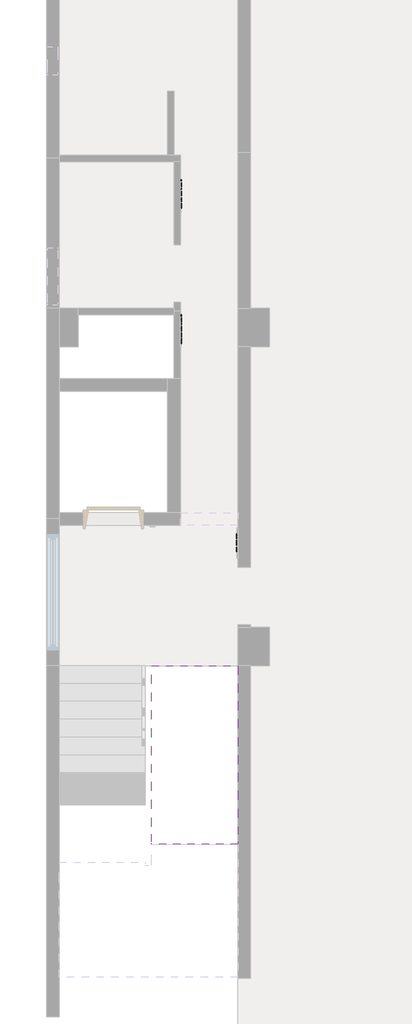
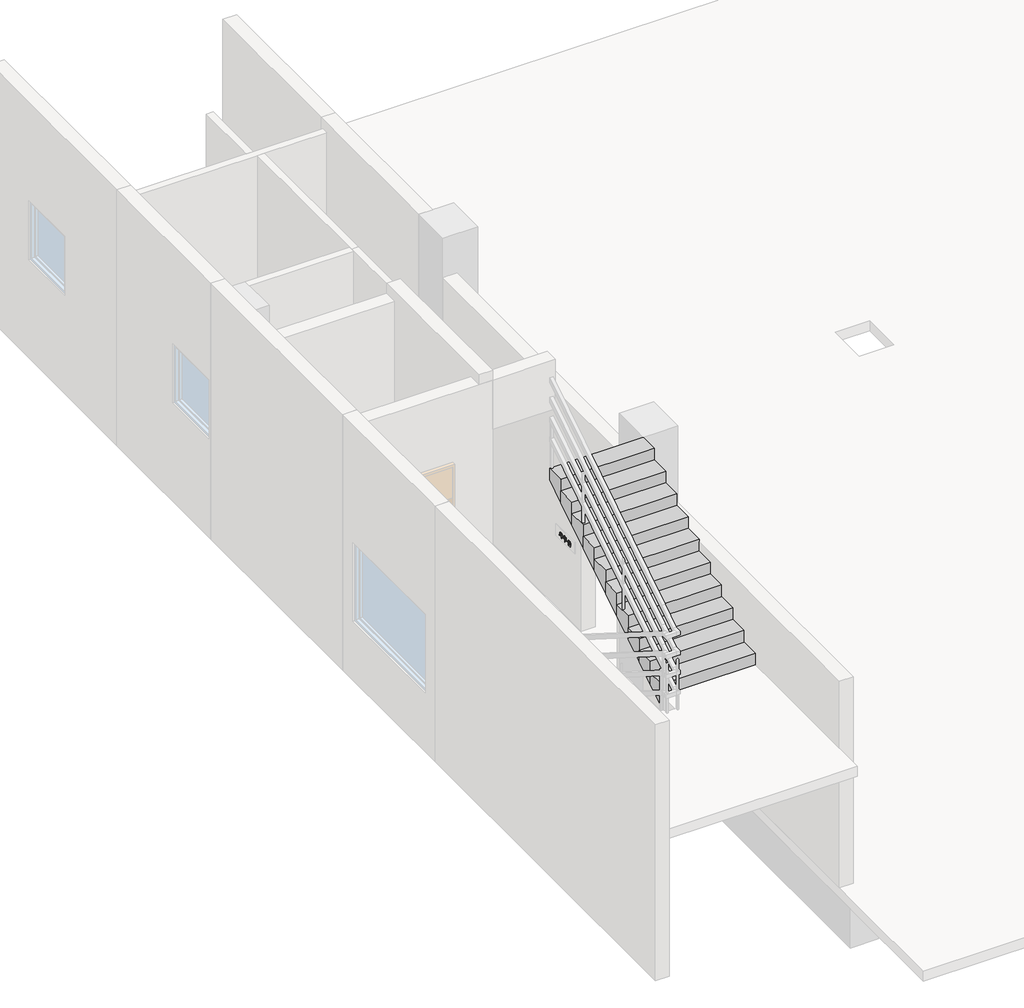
# One storey, part 3 of 3: 3 proxies, 1 stair flight.
"""IFC4 building model written with IfcOpenShell, lengths in millimetres."""

from ifc_helpers import new_model, si_unit, frame, origin, place, context, project, spatial, polyline, outline, extrude, faceted_brep, element, save

model = new_model("IFC4")

# Units and contexts
model_context = context("Model", 3, world=origin())
ifc_project = project(units=[si_unit("LENGTHUNIT", "METRE", prefix="MILLI")], contexts=[model_context])

# Site, building, storey
site = spatial("IfcSite", under=ifc_project)
building = spatial("IfcBuilding", under=site)
storey = spatial("IfcBuildingStorey", under=building, Name="5층", Elevation=14700.0)

# Proxies
placement = place(None, origin())
element("IfcBuildingElementProxy", 1, Name="600 mm Arial", ObjectType="600 mm Arial", at=placement, inside=storey, context=model_context, shape_type="SweptSolid", body=[
    extrude(outline(polyline([(10297.787199, 15917.7990058), (10300.6391665, 15917.0436198), (10301.7028733, 15915.3324394), (10300.7933269, 15913.0508654), (10298.1726, 15911.8792463), (10253.0652656, 15911.8792463), (10249.42708, 15915.3324394), (10253.0652656, 15917.7990058), (10297.787199, 15917.7990058)])), frame((1860.0, 0.0, 0.0), z_axis=(1.0, 0.0, 0.0), x_axis=(0.0, 1.0, 0.0)), (0.0, 0.0, 1.0), 10.0),
    extrude(outline(polyline([(10288.1213416, 15928.6518983), (10291.8366074, 15926.1853318), (10288.3063341, 15922.7321388), (10261.9449049, 15922.7321388), (10258.3067193, 15926.1853318), (10261.9449049, 15928.6518983), (10288.1213416, 15928.6518983)])), frame((1860.0, 0.0, 0.0), z_axis=(1.0, 0.0, 0.0), x_axis=(0.0, 1.0, 0.0)), (0.0, 0.0, 1.0), 10.0),
    extrude(outline(polyline([(10275.711429, 15906.9461133), (10292.0524319, 15902.2133889), (10297.771783, 15891.7921456), (10292.067848, 15880.4151077), (10279.0258777, 15876.3955749), (10279.0258777, 15863.5345434), (10288.8767276, 15864.8140747), (10301.0399835, 15868.4676763), (10305.6031315, 15867.0802327), (10303.5836302, 15862.640413), (10278.9025494, 15857.6147838), (10248.8104384, 15856.6281572), (10245.6501501, 15857.6456159), (10244.4939471, 15860.1275984), (10245.4497416, 15861.869611), (10248.3325412, 15862.5479168), (10258.3837995, 15862.640413), (10271.132865, 15862.9949819), (10271.132865, 15876.7526908), (10258.9696091, 15880.4151077), (10253.3735864, 15891.7921456), (10258.9696091, 15902.2133889), (10275.711429, 15906.9461133)]), holes=[polyline([(10275.711429, 15901.0263538), (10264.5347997, 15898.0356419), (10261.2665991, 15891.7921456), (10264.5502157, 15884.5774386), (10275.711429, 15881.293822), (10286.5643215, 15884.5774386), (10289.8787702, 15891.7921456), (10286.5951536, 15898.051058), (10275.711429, 15901.0263538)])]), frame((1860.0, 0.0, 0.0), z_axis=(1.0, 0.0, 0.0), x_axis=(0.0, 1.0, 0.0)), (0.0, 0.0, 1.0), 10.0),
    extrude(outline(polyline([(10315.5310616, 15893.1333411), (10324.7036057, 15893.1333411), (10327.3243325, 15892.4242032), (10328.3417912, 15890.7130227), (10327.5709892, 15888.3852006), (10325.1815029, 15887.2135815), (10315.5310616, 15887.2135815), (10315.5310616, 15854.4236634), (10314.159034, 15851.6796082), (10311.5383071, 15850.7083977), (10308.8713321, 15851.7104403), (10307.6380489, 15854.5624078), (10307.6380489, 15928.9448031), (10308.8867481, 15930.9488884), (10311.5383071, 15931.6117781), (10314.1282019, 15930.9334723), (10315.5310616, 15929.0218833), (10315.5310616, 15893.1333411)])), frame((1860.0, 0.0, 0.0), z_axis=(1.0, 0.0, 0.0), x_axis=(0.0, 1.0, 0.0)), (0.0, 0.0, 1.0), 10.0),
    extrude(outline(polyline([(10414.1937206, 15908.9193665), (10423.3662647, 15908.9193665), (10425.9869916, 15908.2410607), (10427.0044502, 15906.4990482), (10426.2182322, 15904.1249779), (10423.7516657, 15902.999607), (10414.1937206, 15902.999607), (10414.1937206, 15885.0861679), (10412.821693, 15882.1879523), (10410.2009661, 15881.293822), (10407.5339911, 15882.1879523), (10406.3007079, 15885.1478321), (10406.3007079, 15929.0372993), (10410.2009661, 15931.6117781), (10414.1937206, 15929.1760437), (10414.1937206, 15908.9193665)])), frame((1860.0, 0.0, 0.0), z_axis=(1.0, 0.0, 0.0), x_axis=(0.0, 1.0, 0.0)), (0.0, 0.0, 1.0), 10.0),
    extrude(outline(polyline([(10383.6545444, 15880.3071954), (10407.2873345, 15876.0832003), (10413.207094, 15871.4699502), (10415.1803472, 15865.8623655), (10413.207094, 15859.7460514), (10407.2873345, 15855.024889), (10383.6545444, 15850.7083977), (10359.9138421, 15855.024889), (10354.0056446, 15859.7383434), (10352.0362454, 15865.8623655), (10354.0056446, 15871.4699502), (10359.9138421, 15876.0832003), (10383.6545444, 15880.3071954)]), holes=[polyline([(10383.6545444, 15874.3874359), (10365.1707119, 15871.8437892), (10359.9292581, 15865.9086136), (10365.1707119, 15859.3259643), (10383.6545444, 15856.6281572), (10401.9379684, 15859.3259643), (10407.2873345, 15865.9086136), (10401.9379684, 15871.8437892), (10383.6545444, 15874.3874359)])]), frame((1860.0, 0.0, 0.0), z_axis=(1.0, 0.0, 0.0), x_axis=(0.0, 1.0, 0.0)), (0.0, 0.0, 1.0), 10.0),
    extrude(outline(polyline([(10395.5865598, 15929.6385249), (10398.9626726, 15927.2182066), (10395.5865598, 15923.7187654), (10377.6885368, 15923.7187654), (10377.6885368, 15921.7609282), (10379.3804472, 15912.3802676), (10384.4561785, 15904.6182912), (10399.1784972, 15895.1065943), (10401.382991, 15893.6112383), (10401.1363343, 15891.1138398), (10398.8855924, 15889.2484989), (10395.5248956, 15889.4643234), (10381.4038025, 15898.1898023), (10373.603286, 15909.3201836), (10366.2035866, 15897.6348249), (10351.1883632, 15888.2156242), (10348.2593155, 15888.3543685), (10346.2398142, 15890.2351255), (10345.9931576, 15892.6091957), (10348.1976513, 15894.1199677), (10363.4595314, 15904.2791383), (10368.2115259, 15912.0642388), (10369.795524, 15921.5451037), (10369.795524, 15923.7187654), (10351.8975011, 15923.7187654), (10348.3363957, 15927.2182066), (10351.9899973, 15929.6385249), (10395.5865598, 15929.6385249)])), frame((1860.0, 0.0, 0.0), z_axis=(1.0, 0.0, 0.0), x_axis=(0.0, 1.0, 0.0)), (0.0, 0.0, 1.0), 10.0),
    extrude(outline(polyline([(10515.8162594, 15892.8404363), (10514.4442318, 15890.065549), (10511.869753, 15889.1868347), (10509.1565299, 15890.0809651), (10507.9232467, 15892.8404363), (10507.9232467, 15928.9448031), (10509.1565299, 15930.9488884), (10511.869753, 15931.6117781), (10514.4288158, 15930.9488884), (10515.8162594, 15929.0527154), (10515.8162594, 15892.8404363)])), frame((1860.0, 0.0, 0.0), z_axis=(1.0, 0.0, 0.0), x_axis=(0.0, 1.0, 0.0)), (0.0, 0.0, 1.0), 10.0),
    extrude(outline(polyline([(10506.150402, 15885.2403284), (10513.2571967, 15883.3441554), (10515.8162594, 15878.1181177), (10515.8162594, 15874.0328669), (10513.365109, 15868.5293405), (10507.1986928, 15866.4944231), (10462.0296942, 15866.4944231), (10459.9639448, 15866.0011098), (10459.5785438, 15864.2590973), (10459.5785438, 15860.3280069), (10460.0256089, 15858.2160094), (10461.9063659, 15857.6147838), (10513.8738383, 15857.6147838), (10517.7740965, 15855.1944655), (10516.8799662, 15852.8049792), (10514.2438233, 15851.6950243), (10459.9947769, 15851.6950243), (10454.0904334, 15853.8378539), (10451.685531, 15859.6805332), (10451.685531, 15865.4153003), (10453.9979371, 15870.5334257), (10459.8406165, 15872.4141827), (10505.2871038, 15872.4141827), (10507.3528532, 15872.9691601), (10507.9232467, 15874.834501), (10507.9232467, 15877.3318996), (10507.4607655, 15878.8580876), (10505.2100236, 15879.3205688), (10455.5241251, 15879.3205688), (10451.685531, 15882.7891779), (10455.5395412, 15885.2403284), (10506.150402, 15885.2403284)])), frame((1860.0, 0.0, 0.0), z_axis=(1.0, 0.0, 0.0), x_axis=(0.0, 1.0, 0.0)), (0.0, 0.0, 1.0), 10.0),
    extrude(outline(polyline([(10465.4983033, 15926.7865574), (10466.7624186, 15928.9756352), (10469.3985615, 15929.6385249), (10472.0038724, 15928.9756352), (10473.391316, 15926.7865574), (10472.63593, 15921.0826225), (10470.9555816, 15915.6407602), (10484.5062812, 15906.4682161), (10495.1433491, 15894.3666243), (10495.8987351, 15892.2083786), (10494.4342113, 15889.7263961), (10491.7364042, 15889.0789224), (10488.9461009, 15890.7901029), (10479.3573237, 15902.0283964), (10468.5506793, 15910.1526498), (10461.1201478, 15899.2380931), (10449.1573004, 15888.0306317), (10446.1049244, 15887.2598297), (10443.8233504, 15888.7089375), (10443.1758767, 15891.206336), (10445.1491299, 15893.117925), (10460.7501628, 15910.8463716), (10465.4983033, 15926.7865574)])), frame((1860.0, 0.0, 0.0), z_axis=(1.0, 0.0, 0.0), x_axis=(0.0, 1.0, 0.0)), (0.0, 0.0, 1.0), 10.0),
    extrude(outline(polyline([(10556.6225185, 15935.2345476), (10559.3665737, 15936.4678308), (10562.0797969, 15935.9899336), (10563.7601453, 15934.2787531), (10563.1435037, 15931.3497054), (10553.4313982, 15912.4804719), (10550.3481901, 15891.6379851), (10553.1539094, 15870.2713531), (10562.9893433, 15851.957097), (10564.0684661, 15849.290122), (10562.6810224, 15846.5460668), (10559.7673908, 15845.5286081), (10556.6995987, 15847.2089565), (10545.5846336, 15867.8818668), (10542.4551773, 15891.6379851), (10545.7850421, 15914.052908), (10556.6225185, 15935.2345476)])), frame((1860.0, 0.0, 0.0), z_axis=(1.0, 0.0, 0.0), x_axis=(0.0, 1.0, 0.0)), (0.0, 0.0, 1.0), 10.0),
    extrude(outline(polyline([(10604.7513969, 15928.6518983), (10614.5598527, 15926.0350255), (10621.7552895, 15918.1844068), (10625.3973917, 15908.5766763), (10626.4263498, 15910.2143139), (10629.4324777, 15910.8926197), (10644.0777161, 15910.8926197), (10644.0777161, 15928.8060587), (10645.2955833, 15930.8563921), (10648.0242225, 15931.6117781), (10650.6141173, 15930.9488884), (10651.9707289, 15928.8368908), (10651.9707289, 15854.6549041), (10650.6449494, 15851.7258564), (10648.0242225, 15850.7083977), (10645.2647513, 15851.7412724), (10644.0777161, 15854.6857361), (10644.0777161, 15878.3339422), (10629.2629013, 15878.3339422), (10625.8552008, 15880.4777179), (10621.7552895, 15869.6547114), (10614.4211083, 15861.3647357), (10604.7513969, 15858.6014104), (10594.9082551, 15861.3647357), (10587.4545995, 15869.6547114), (10583.3038306, 15880.6270782), (10581.920241, 15894.0274714), (10583.3038306, 15907.2197481), (10587.4545995, 15918.1844068), (10594.7695107, 15926.0350255), (10604.7513969, 15928.6518983)]), holes=[polyline([(10626.2062694, 15883.4271544), (10629.2629013, 15884.2537018), (10644.0777161, 15884.2537018), (10644.0777161, 15904.9728602), (10629.5249739, 15904.9728602), (10625.9314286, 15907.0731936), (10627.3050641, 15894.0274714), (10626.2062694, 15883.4271544)]), polyline([(10604.7051488, 15922.7321388), (10598.4115503, 15920.6432653), (10593.6210157, 15914.3766448), (10589.8132537, 15894.0737195), (10593.6210157, 15873.5241376), (10598.5425866, 15866.7719119), (10604.7051488, 15864.52117), (10610.7174046, 15866.7719119), (10615.5888734, 15873.5241376), (10619.4120514, 15894.0737195), (10615.5888734, 15914.3766448), (10610.8484409, 15920.6432653), (10604.7051488, 15922.7321388)])]), frame((1860.0, 0.0, 0.0), z_axis=(1.0, 0.0, 0.0), x_axis=(0.0, 1.0, 0.0)), (0.0, 0.0, 1.0), 10.0),
    extrude(outline(polyline([(10683.1265467, 15935.2345476), (10693.902359, 15914.052908), (10697.355552, 15891.6379851), (10694.1027675, 15867.8818668), (10683.0802985, 15847.2089565), (10679.9200102, 15845.5286081), (10676.9909626, 15846.5460668), (10675.618935, 15849.290122), (10676.8059701, 15851.957097), (10686.5334916, 15870.2713531), (10689.4625393, 15891.6379851), (10686.2560029, 15912.4804719), (10676.6363936, 15931.3342894), (10675.9118397, 15934.2787531), (10677.6076042, 15935.9899336), (10680.2899952, 15936.4678308), (10683.1265467, 15935.2345476)])), frame((1860.0, 0.0, 0.0), z_axis=(1.0, 0.0, 0.0), x_axis=(0.0, 1.0, 0.0)), (0.0, 0.0, 1.0), 10.0),
])
element("IfcBuildingElementProxy", 2, Name="600 mm Arial", ObjectType="600 mm Arial", at=placement, inside=storey, context=model_context, shape_type="SweptSolid", body=[
    extrude(outline(polyline([(12417.787199, 15917.7990058), (12420.6391665, 15917.0436198), (12421.7028733, 15915.3324394), (12420.7933269, 15913.0508654), (12418.1726, 15911.8792463), (12373.0652656, 15911.8792463), (12369.42708, 15915.3324394), (12373.0652656, 15917.7990058), (12417.787199, 15917.7990058)])), frame((1860.0, 0.0, 0.0), z_axis=(1.0, 0.0, 0.0), x_axis=(0.0, 1.0, 0.0)), (0.0, 0.0, 1.0), 10.0),
    extrude(outline(polyline([(12408.1213416, 15928.6518983), (12411.8366074, 15926.1853318), (12408.3063341, 15922.7321388), (12381.9449049, 15922.7321388), (12378.3067193, 15926.1853318), (12381.9449049, 15928.6518983), (12408.1213416, 15928.6518983)])), frame((1860.0, 0.0, 0.0), z_axis=(1.0, 0.0, 0.0), x_axis=(0.0, 1.0, 0.0)), (0.0, 0.0, 1.0), 10.0),
    extrude(outline(polyline([(12395.711429, 15906.9461133), (12412.0524319, 15902.2133889), (12417.771783, 15891.7921456), (12412.067848, 15880.4151077), (12399.0258777, 15876.3955749), (12399.0258777, 15863.5345434), (12408.8767276, 15864.8140747), (12421.0399835, 15868.4676763), (12425.6031315, 15867.0802327), (12423.5836302, 15862.640413), (12398.9025494, 15857.6147838), (12368.8104384, 15856.6281572), (12365.6501501, 15857.6456159), (12364.4939471, 15860.1275984), (12365.4497416, 15861.869611), (12368.3325412, 15862.5479168), (12378.3837995, 15862.640413), (12391.132865, 15862.9949819), (12391.132865, 15876.7526908), (12378.9696091, 15880.4151077), (12373.3735864, 15891.7921456), (12378.9696091, 15902.2133889), (12395.711429, 15906.9461133)]), holes=[polyline([(12395.711429, 15901.0263538), (12384.5347997, 15898.0356419), (12381.2665991, 15891.7921456), (12384.5502157, 15884.5774386), (12395.711429, 15881.293822), (12406.5643215, 15884.5774386), (12409.8787702, 15891.7921456), (12406.5951536, 15898.051058), (12395.711429, 15901.0263538)])]), frame((1860.0, 0.0, 0.0), z_axis=(1.0, 0.0, 0.0), x_axis=(0.0, 1.0, 0.0)), (0.0, 0.0, 1.0), 10.0),
    extrude(outline(polyline([(12435.5310616, 15893.1333411), (12444.7036057, 15893.1333411), (12447.3243325, 15892.4242032), (12448.3417912, 15890.7130227), (12447.5709892, 15888.3852006), (12445.1815029, 15887.2135815), (12435.5310616, 15887.2135815), (12435.5310616, 15854.4236634), (12434.159034, 15851.6796082), (12431.5383071, 15850.7083977), (12428.8713321, 15851.7104403), (12427.6380489, 15854.5624078), (12427.6380489, 15928.9448031), (12428.8867481, 15930.9488884), (12431.5383071, 15931.6117781), (12434.1282019, 15930.9334723), (12435.5310616, 15929.0218833), (12435.5310616, 15893.1333411)])), frame((1860.0, 0.0, 0.0), z_axis=(1.0, 0.0, 0.0), x_axis=(0.0, 1.0, 0.0)), (0.0, 0.0, 1.0), 10.0),
    extrude(outline(polyline([(12534.1937206, 15908.9193665), (12543.3662647, 15908.9193665), (12545.9869916, 15908.2410607), (12547.0044502, 15906.4990482), (12546.2182322, 15904.1249779), (12543.7516657, 15902.999607), (12534.1937206, 15902.999607), (12534.1937206, 15885.0861679), (12532.821693, 15882.1879523), (12530.2009661, 15881.293822), (12527.5339911, 15882.1879523), (12526.3007079, 15885.1478321), (12526.3007079, 15929.0372993), (12530.2009661, 15931.6117781), (12534.1937206, 15929.1760437), (12534.1937206, 15908.9193665)])), frame((1860.0, 0.0, 0.0), z_axis=(1.0, 0.0, 0.0), x_axis=(0.0, 1.0, 0.0)), (0.0, 0.0, 1.0), 10.0),
    extrude(outline(polyline([(12503.6545444, 15880.3071954), (12527.2873345, 15876.0832003), (12533.207094, 15871.4699502), (12535.1803472, 15865.8623655), (12533.207094, 15859.7460514), (12527.2873345, 15855.024889), (12503.6545444, 15850.7083977), (12479.9138421, 15855.024889), (12474.0056446, 15859.7383434), (12472.0362454, 15865.8623655), (12474.0056446, 15871.4699502), (12479.9138421, 15876.0832003), (12503.6545444, 15880.3071954)]), holes=[polyline([(12503.6545444, 15874.3874359), (12485.1707119, 15871.8437892), (12479.9292581, 15865.9086136), (12485.1707119, 15859.3259643), (12503.6545444, 15856.6281572), (12521.9379684, 15859.3259643), (12527.2873345, 15865.9086136), (12521.9379684, 15871.8437892), (12503.6545444, 15874.3874359)])]), frame((1860.0, 0.0, 0.0), z_axis=(1.0, 0.0, 0.0), x_axis=(0.0, 1.0, 0.0)), (0.0, 0.0, 1.0), 10.0),
    extrude(outline(polyline([(12515.5865598, 15929.6385249), (12518.9626726, 15927.2182066), (12515.5865598, 15923.7187654), (12497.6885368, 15923.7187654), (12497.6885368, 15921.7609282), (12499.3804472, 15912.3802676), (12504.4561785, 15904.6182912), (12519.1784972, 15895.1065943), (12521.382991, 15893.6112383), (12521.1363343, 15891.1138398), (12518.8855924, 15889.2484989), (12515.5248956, 15889.4643234), (12501.4038025, 15898.1898023), (12493.603286, 15909.3201836), (12486.2035866, 15897.6348249), (12471.1883632, 15888.2156242), (12468.2593155, 15888.3543685), (12466.2398142, 15890.2351255), (12465.9931576, 15892.6091957), (12468.1976513, 15894.1199677), (12483.4595314, 15904.2791383), (12488.2115259, 15912.0642388), (12489.795524, 15921.5451037), (12489.795524, 15923.7187654), (12471.8975011, 15923.7187654), (12468.3363957, 15927.2182066), (12471.9899973, 15929.6385249), (12515.5865598, 15929.6385249)])), frame((1860.0, 0.0, 0.0), z_axis=(1.0, 0.0, 0.0), x_axis=(0.0, 1.0, 0.0)), (0.0, 0.0, 1.0), 10.0),
    extrude(outline(polyline([(12635.8162594, 15892.8404363), (12634.4442318, 15890.065549), (12631.869753, 15889.1868347), (12629.1565299, 15890.0809651), (12627.9232467, 15892.8404363), (12627.9232467, 15928.9448031), (12629.1565299, 15930.9488884), (12631.869753, 15931.6117781), (12634.4288158, 15930.9488884), (12635.8162594, 15929.0527154), (12635.8162594, 15892.8404363)])), frame((1860.0, 0.0, 0.0), z_axis=(1.0, 0.0, 0.0), x_axis=(0.0, 1.0, 0.0)), (0.0, 0.0, 1.0), 10.0),
    extrude(outline(polyline([(12626.150402, 15885.2403284), (12633.2571967, 15883.3441554), (12635.8162594, 15878.1181177), (12635.8162594, 15874.0328669), (12633.365109, 15868.5293405), (12627.1986928, 15866.4944231), (12582.0296942, 15866.4944231), (12579.9639448, 15866.0011098), (12579.5785438, 15864.2590973), (12579.5785438, 15860.3280069), (12580.0256089, 15858.2160094), (12581.9063659, 15857.6147838), (12633.8738383, 15857.6147838), (12637.7740965, 15855.1944655), (12636.8799662, 15852.8049792), (12634.2438233, 15851.6950243), (12579.9947769, 15851.6950243), (12574.0904334, 15853.8378539), (12571.685531, 15859.6805332), (12571.685531, 15865.4153003), (12573.9979371, 15870.5334257), (12579.8406165, 15872.4141827), (12625.2871038, 15872.4141827), (12627.3528532, 15872.9691601), (12627.9232467, 15874.834501), (12627.9232467, 15877.3318996), (12627.4607655, 15878.8580876), (12625.2100236, 15879.3205688), (12575.5241251, 15879.3205688), (12571.685531, 15882.7891779), (12575.5395412, 15885.2403284), (12626.150402, 15885.2403284)])), frame((1860.0, 0.0, 0.0), z_axis=(1.0, 0.0, 0.0), x_axis=(0.0, 1.0, 0.0)), (0.0, 0.0, 1.0), 10.0),
    extrude(outline(polyline([(12585.4983033, 15926.7865574), (12586.7624186, 15928.9756352), (12589.3985615, 15929.6385249), (12592.0038724, 15928.9756352), (12593.391316, 15926.7865574), (12592.63593, 15921.0826225), (12590.9555816, 15915.6407602), (12604.5062812, 15906.4682161), (12615.1433491, 15894.3666243), (12615.8987351, 15892.2083786), (12614.4342113, 15889.7263961), (12611.7364042, 15889.0789224), (12608.9461009, 15890.7901029), (12599.3573237, 15902.0283964), (12588.5506793, 15910.1526498), (12581.1201478, 15899.2380931), (12569.1573004, 15888.0306317), (12566.1049244, 15887.2598297), (12563.8233504, 15888.7089375), (12563.1758767, 15891.206336), (12565.1491299, 15893.117925), (12580.7501628, 15910.8463716), (12585.4983033, 15926.7865574)])), frame((1860.0, 0.0, 0.0), z_axis=(1.0, 0.0, 0.0), x_axis=(0.0, 1.0, 0.0)), (0.0, 0.0, 1.0), 10.0),
    extrude(outline(polyline([(12676.6225185, 15935.2345476), (12679.3665737, 15936.4678308), (12682.0797969, 15935.9899336), (12683.7601453, 15934.2787531), (12683.1435037, 15931.3497054), (12673.4313982, 15912.4804719), (12670.3481901, 15891.6379851), (12673.1539094, 15870.2713531), (12682.9893433, 15851.957097), (12684.0684661, 15849.290122), (12682.6810224, 15846.5460668), (12679.7673908, 15845.5286081), (12676.6995987, 15847.2089565), (12665.5846336, 15867.8818668), (12662.4551773, 15891.6379851), (12665.7850421, 15914.052908), (12676.6225185, 15935.2345476)])), frame((1860.0, 0.0, 0.0), z_axis=(1.0, 0.0, 0.0), x_axis=(0.0, 1.0, 0.0)), (0.0, 0.0, 1.0), 10.0),
    extrude(outline(polyline([(12702.9068676, 15926.8019735), (12704.1401508, 15928.8831389), (12706.8071258, 15929.6385249), (12709.4124366, 15928.9756352), (12710.7998803, 15926.8944697), (12710.7998803, 15902.5525418), (12711.9406673, 15898.4981232), (12715.7792613, 15897.0798474), (12734.3710062, 15897.7581532), (12752.1919489, 15899.9934791), (12755.4909816, 15899.947231), (12757.1250819, 15898.451875), (12756.8321771, 15896.0161406), (12754.3193625, 15894.1507997), (12735.3730488, 15891.8538097), (12713.75976, 15891.1600879), (12705.758835, 15894.4899526), (12702.9068676, 15902.4446295), (12702.9068676, 15926.8019735)])), frame((1860.0, 0.0, 0.0), z_axis=(1.0, 0.0, 0.0), x_axis=(0.0, 1.0, 0.0)), (0.0, 0.0, 1.0), 10.0),
    extrude(outline(polyline([(12769.0108491, 15908.9193665), (12778.3838017, 15908.9193665), (12781.8369948, 15906.4990482), (12778.3838017, 15902.999607), (12769.0108491, 15902.999607), (12769.0108491, 15891.0675917), (12767.6542375, 15888.2002081), (12765.0180946, 15887.2135815), (12762.3511196, 15888.2002081), (12761.1178364, 15891.0367596), (12761.1178364, 15929.0527154), (12765.0180946, 15931.6117781), (12769.0108491, 15929.0835475), (12769.0108491, 15908.9193665)])), frame((1860.0, 0.0, 0.0), z_axis=(1.0, 0.0, 0.0), x_axis=(0.0, 1.0, 0.0)), (0.0, 0.0, 1.0), 10.0),
    extrude(outline(polyline([(12759.3912398, 15881.293822), (12766.3284581, 15879.4593132), (12769.0108491, 15874.5570123), (12769.0108491, 15861.0833929), (12766.3592901, 15854.7319843), (12759.7766409, 15852.6816509), (12717.8450108, 15852.6816509), (12710.1369905, 15855.0557211), (12707.8400005, 15861.5612902), (12707.8400005, 15874.1716113), (12710.2449028, 15879.2743207), (12716.5963115, 15881.293822), (12759.3912398, 15881.293822)]), holes=[polyline([(12761.1178364, 15873.0924885), (12760.4703627, 15874.8807492), (12757.8342198, 15875.3740624), (12718.6312288, 15875.3740624), (12716.1646624, 15874.7728369), (12715.7330132, 15872.907496), (12715.7330132, 15862.0546035), (12716.3188228, 15859.3722124), (12719.0166298, 15858.6014104), (12758.0192122, 15858.6014104), (12760.4703627, 15859.2797162), (12761.1178364, 15861.6692025), (12761.1178364, 15873.0924885)])]), frame((1860.0, 0.0, 0.0), z_axis=(1.0, 0.0, 0.0), x_axis=(0.0, 1.0, 0.0)), (0.0, 0.0, 1.0), 10.0),
    extrude(outline(polyline([(12803.1265467, 15935.2345476), (12813.902359, 15914.052908), (12817.355552, 15891.6379851), (12814.1027675, 15867.8818668), (12803.0802985, 15847.2089565), (12799.9200102, 15845.5286081), (12796.9909626, 15846.5460668), (12795.618935, 15849.290122), (12796.8059701, 15851.957097), (12806.5334916, 15870.2713531), (12809.4625393, 15891.6379851), (12806.2560029, 15912.4804719), (12796.6363936, 15931.3342894), (12795.9118397, 15934.2787531), (12797.6076042, 15935.9899336), (12800.2899952, 15936.4678308), (12803.1265467, 15935.2345476)])), frame((1860.0, 0.0, 0.0), z_axis=(1.0, 0.0, 0.0), x_axis=(0.0, 1.0, 0.0)), (0.0, 0.0, 1.0), 10.0),
])
element("IfcBuildingElementProxy", 3, Name="600 mm Arial", ObjectType="600 mm Arial", at=placement, inside=storey, context=model_context, shape_type="SweptSolid", body=[
    extrude(outline(polyline([(7188.5637707, 15886.2433766), (7189.7662218, 15892.1477201), (7201.4361645, 15892.1477201), (7202.5615354, 15922.7331444), (7211.3178464, 15921.6540216), (7210.1924755, 15843.8030172), (7201.4361645, 15844.9129721), (7201.4361645, 15885.241334), (7188.5637707, 15886.2433766)])), frame((2730.0, 0.0, 0.0), z_axis=(1.0, 0.0, 0.0), x_axis=(0.0, 1.0, 0.0)), (0.0, 0.0, 1.0), 10.0),
    extrude(outline(polyline([(7258.8609152, 15862.5489224), (7254.189855, 15867.0581142), (7249.5958749, 15872.7235091), (7245.3872959, 15879.2059541), (7241.8724386, 15886.2433766), (7238.951099, 15880.5163176), (7235.0508407, 15874.7584264), (7230.6264371, 15869.5555128), (7226.2405736, 15865.5088022), (7223.4965184, 15865.6783786), (7219.8891649, 15869.8715416), (7220.0741574, 15872.4151883), (7225.6085159, 15877.4562335), (7230.7960135, 15883.9078465), (7234.9968846, 15891.2073416), (7237.6638596, 15898.7920335), (7236.5461966, 15907.5020964), (7237.3247067, 15918.5245654), (7246.1580979, 15917.5071067), (7246.2505941, 15910.3386479), (7246.8518197, 15903.8176627), (7248.0080227, 15897.6358305), (7249.7654514, 15891.5002464), (7256.11686, 15879.5913551), (7265.643973, 15869.4553085), (7265.9060457, 15866.6341731), (7261.8670431, 15862.6414186), (7258.8609152, 15862.5489224)])), frame((2730.0, 0.0, 0.0), z_axis=(1.0, 0.0, 0.0), x_axis=(0.0, 1.0, 0.0)), (0.0, 0.0, 1.0), 10.0),
    extrude(outline(polyline([(7085.1838033, 15873.5713913), (7086.4787507, 15879.3215744), (7162.4335821, 15878.2424516), (7161.2311309, 15872.4151883), (7128.6107893, 15872.4151883), (7128.6107893, 15845.0208844), (7127.4083381, 15843.8030172), (7119.9469745, 15843.8030172), (7118.7445234, 15845.0208844), (7118.7445234, 15872.4151883), (7085.1838033, 15873.5713913)])), frame((2730.0, 0.0, 0.0), z_axis=(1.0, 0.0, 0.0), x_axis=(0.0, 1.0, 0.0)), (0.0, 0.0, 1.0), 10.0),
    extrude(outline(polyline([(7096.6841695, 15895.2309282), (7096.6841695, 15916.6900565), (7098.017657, 15921.438197), (7103.2051546, 15922.7331444), (7144.9209601, 15922.7331444), (7149.6074364, 15921.3996569), (7151.0257121, 15916.7825528), (7151.0257121, 15895.3080084), (7149.6922246, 15890.567576), (7144.489311, 15889.1878403), (7102.7735054, 15889.1878403), (7098.1024452, 15890.567576), (7096.6841695, 15895.2309282)]), holes=[polyline([(7106.5504354, 15914.5318109), (7107.6758063, 15896.0942265), (7141.06695, 15897.4970861), (7139.941579, 15915.8267583), (7106.5504354, 15914.5318109)])]), frame((2730.0, 0.0, 0.0), z_axis=(1.0, 0.0, 0.0), x_axis=(0.0, 1.0, 0.0)), (0.0, 0.0, 1.0), 10.0),
    extrude(outline(polyline([(6987.2919463, 15844.8513079), (6988.4943974, 15850.7094033), (7030.0406265, 15851.9426865), (7029.0077518, 15857.6157894), (6995.3699515, 15857.6157894), (6990.6834752, 15858.6640802), (6989.5272721, 15862.5489224), (6989.5272721, 15872.3381081), (6990.6834752, 15876.2152423), (6995.3699515, 15877.3483212), (7039.9068924, 15876.3000305), (7038.7198573, 15870.4419351), (6999.1468814, 15869.1007396), (7000.1797561, 15864.5221756), (7034.0796291, 15864.5221756), (7038.5811129, 15863.2966004), (7039.7373159, 15859.357802), (7039.7373159, 15849.0444709), (7038.5348648, 15845.0748405), (7033.9871328, 15843.8030172), (6987.2919463, 15844.8513079)])), frame((2730.0, 0.0, 0.0), z_axis=(1.0, 0.0, 0.0), x_axis=(0.0, 1.0, 0.0)), (0.0, 0.0, 1.0), 10.0),
    extrude(outline(polyline([(7049.0948525, 15881.2948276), (7038.6736091, 15888.5557827), (7031.0735012, 15898.1291438), (7023.388605, 15890.0203065), (7013.8229519, 15884.2547074), (7011.587626, 15884.886765), (7008.6739944, 15889.1724243), (7009.1827237, 15891.1610935), (7014.0310685, 15893.6893241), (7018.9719094, 15897.2889696), (7023.5196414, 15901.8521176), (7027.1269948, 15907.0704473), (7025.9245437, 15913.2908196), (7025.4928945, 15920.1124175), (7026.6028495, 15921.4073649), (7035.3591604, 15920.4669865), (7039.9993886, 15901.1198557), (7055.2766847, 15885.7192312), (7051.8389077, 15881.3873239), (7049.0948525, 15881.2948276)])), frame((2730.0, 0.0, 0.0), z_axis=(1.0, 0.0, 0.0), x_axis=(0.0, 1.0, 0.0)), (0.0, 0.0, 1.0), 10.0),
    extrude(outline(polyline([(6989.5272721, 15882.3739504), (6990.637227, 15922.7331444), (6999.393538, 15921.6540216), (6999.393538, 15882.4664467), (6998.2835831, 15881.2948276), (6989.5272721, 15882.3739504)])), frame((2730.0, 0.0, 0.0), z_axis=(1.0, 0.0, 0.0), x_axis=(0.0, 1.0, 0.0)), (0.0, 0.0, 1.0), 10.0),
])

# Stair flight
element("IfcStairFlight", 4, ObjectType="일체형 계단진행 150mm_철근콘크리트", at=placement, inside=storey, context=model_context, shape_type="Brep", body=[
    faceted_brep([(1400.2430136, 2400.0, 17004.5454545), (2750.0, 2400.0, 17004.5454545), (2750.0, 2443.4918734, 17004.5454545), (2750.0, 2680.0, 17004.5454545), (1400.2430136, 2680.0, 17004.5454545), (1400.2430136, 2443.4918734, 17004.5454545), (1400.2430136, 2680.0, 16827.0100152), (1400.2430136, 2443.4918734, 16677.2727273), (1400.2430136, 2400.0, 16677.2727273), (1400.2430136, 2400.0, 16827.2727273), (2750.0, 2400.0, 16677.2727273), (2750.0, 2400.0, 16827.2727273), (2750.0, 2443.4918734, 16677.2727273), (2750.0, 2680.0, 16827.0100152), (1400.2430136, 2960.0, 17181.8181818), (1400.2430136, 2680.0, 17181.8181818), (2750.0, 2680.0, 17181.8181818), (2750.0, 2960.0, 17181.8181818), (1400.2430136, 2960.0, 17004.2827425), (2750.0, 2960.0, 17004.2827425), (1400.2430136, 3240.0, 17359.0909091), (1400.2430136, 2960.0, 17359.0909091), (2750.0, 2960.0, 17359.0909091), (2750.0, 3240.0, 17359.0909091), (1400.2430136, 3240.0, 17181.5554697), (2750.0, 3240.0, 17181.5554697), (1400.2430136, 3520.0, 17536.3636364), (1400.2430136, 3240.0, 17536.3636364), (2750.0, 3240.0, 17536.3636364), (2750.0, 3520.0, 17536.3636364), (1400.2430136, 3520.0, 17358.828197), (2750.0, 3520.0, 17358.828197), (1400.2430136, 3800.0, 17713.6363636), (1400.2430136, 3520.0, 17713.6363636), (2750.0, 3520.0, 17713.6363636), (2750.0, 3800.0, 17713.6363636), (1400.2430136, 3800.0, 17536.1009243), (2750.0, 3800.0, 17536.1009243), (1400.2430136, 4080.0, 17890.9090909), (1400.2430136, 3800.0, 17890.9090909), (2750.0, 3800.0, 17890.9090909), (2750.0, 4080.0, 17890.9090909), (1400.2430136, 4080.0, 17713.3736516), (2750.0, 4080.0, 17713.3736516), (1400.2430136, 4360.0, 18068.1818182), (1400.2430136, 4080.0, 18068.1818182), (2750.0, 4080.0, 18068.1818182), (2750.0, 4360.0, 18068.1818182), (1400.2430136, 4360.0, 17890.6463788), (2750.0, 4360.0, 17890.6463788), (1400.2430136, 4640.0, 18245.4545455), (1400.2430136, 4360.0, 18245.4545455), (2750.0, 4360.0, 18245.4545455), (2750.0, 4640.0, 18245.4545455), (1400.2430136, 4640.0, 18067.9191061), (2750.0, 4640.0, 18067.9191061), (1400.2430136, 4920.0, 18422.7272727), (1400.2430136, 4640.0, 18422.7272727), (2750.0, 4640.0, 18422.7272727), (2750.0, 4920.0, 18422.7272727), (1400.2430136, 4920.0, 18245.1918334), (2750.0, 4920.0, 18245.1918334), (1400.2430136, 5200.0, 18422.4645607), (2750.0, 5200.0, 18422.4645607), (1400.2430136, 5200.0, 18600.0), (1400.2430136, 4920.0, 18600.0), (2750.0, 4920.0, 18600.0), (2750.0, 5200.0, 18600.0)], [[[0, 1, 2, 3, 4, 5]], [[4, 6, 7, 8, 9, 0, 5]], [[1, 0, 9, 8, 10, 11]], [[1, 11, 10, 12, 13, 3, 2]], [[14, 15, 16, 17]], [[15, 14, 18, 6, 4]], [[16, 15, 4, 3]], [[17, 16, 3, 13, 19]], [[20, 21, 22, 23]], [[21, 20, 24, 18, 14]], [[22, 21, 14, 17]], [[23, 22, 17, 19, 25]], [[26, 27, 28, 29]], [[27, 26, 30, 24, 20]], [[28, 27, 20, 23]], [[29, 28, 23, 25, 31]], [[32, 33, 34, 35]], [[33, 32, 36, 30, 26]], [[34, 33, 26, 29]], [[35, 34, 29, 31, 37]], [[38, 39, 40, 41]], [[39, 38, 42, 36, 32]], [[40, 39, 32, 35]], [[41, 40, 35, 37, 43]], [[44, 45, 46, 47]], [[45, 44, 48, 42, 38]], [[46, 45, 38, 41]], [[47, 46, 41, 43, 49]], [[50, 51, 52, 53]], [[51, 50, 54, 48, 44]], [[52, 51, 44, 47]], [[53, 52, 47, 49, 55]], [[56, 57, 58, 59]], [[57, 56, 60, 54, 50]], [[58, 57, 50, 53]], [[59, 58, 53, 55, 61]], [[12, 7, 6, 18, 24, 30, 36, 42, 48, 54, 60, 62, 63, 61, 55, 49, 43, 37, 31, 25, 19, 13]], [[7, 12, 10, 8]], [[64, 65, 66, 67]], [[65, 64, 62, 60, 56]], [[66, 65, 56, 59]], [[67, 66, 59, 61, 63]], [[64, 67, 63, 62]]]),
])

save(model, "model.ifc")
